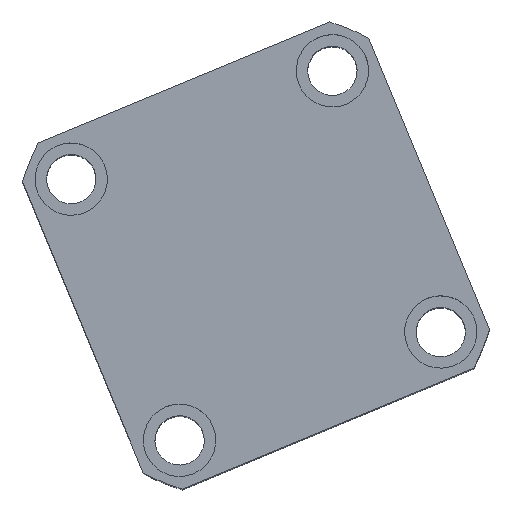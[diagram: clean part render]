
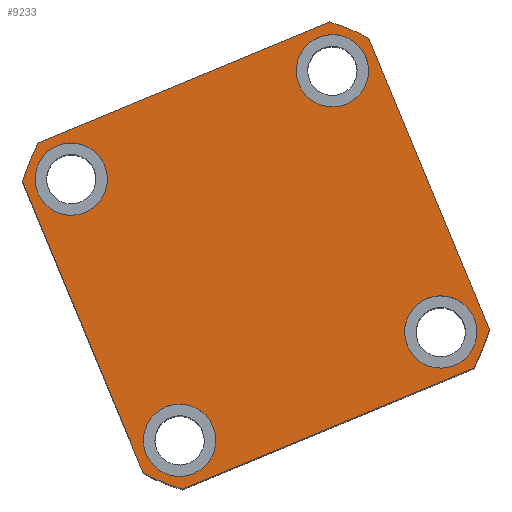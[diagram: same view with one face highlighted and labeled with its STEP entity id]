
A CAD part, top view. The second image highlights one B-rep face of the part: STEP entity #9233.
In plain terms, the highlighted planar face has unit normal (0, 0, 1) as drawn and (0, 0, -1) by its records, which use the part's own axes.
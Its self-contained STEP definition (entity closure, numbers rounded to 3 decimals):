
#123 = ORIENTED_EDGE ( 'NONE', *, *, #4210, .F. ) ;
#185 = AXIS2_PLACEMENT_3D ( 'NONE', #8755, #19676, #10366 ) ;
#231 = ORIENTED_EDGE ( 'NONE', *, *, #15755, .F. ) ;
#433 = AXIS2_PLACEMENT_3D ( 'NONE', #3958, #15053, #5515 ) ;
#449 = VERTEX_POINT ( 'NONE', #18095 ) ;
#770 = CARTESIAN_POINT ( 'NONE',  ( -57., -57., 0. ) ) ;
#855 = CARTESIAN_POINT ( 'NONE',  ( -43., -43., 0. ) ) ;
#1128 = ORIENTED_EDGE ( 'NONE', *, *, #17048, .F. ) ;
#1211 = EDGE_CURVE ( 'NONE', #6701, #18000, #17306, .T. ) ;
#1458 = DIRECTION ( 'NONE',  ( 1., 0., 0. ) ) ;
#1595 = LINE ( 'NONE', #770, #14790 ) ;
#2076 = DIRECTION ( 'NONE',  ( 0., 0., -1. ) ) ;
#2184 = EDGE_CURVE ( 'NONE', #8432, #10188, #18249, .T. ) ;
#2305 = FACE_BOUND ( 'NONE', #6984, .T. ) ;
#2321 = ORIENTED_EDGE ( 'NONE', *, *, #18865, .F. ) ;
#2391 = CIRCLE ( 'NONE', #13827, 11. ) ;
#2451 = ORIENTED_EDGE ( 'NONE', *, *, #3088, .F. ) ;
#2471 = DIRECTION ( 'NONE',  ( -1., 0., 0. ) ) ;
#3021 = CARTESIAN_POINT ( 'NONE',  ( 0., 0., 0. ) ) ;
#3088 = EDGE_CURVE ( 'NONE', #18477, #6701, #13403, .T. ) ;
#3949 = EDGE_CURVE ( 'NONE', #17562, #8432, #17006, .T. ) ;
#3958 = CARTESIAN_POINT ( 'NONE',  ( 43., -43., 0. ) ) ;
#4166 = CIRCLE ( 'NONE', #19478, 11. ) ;
#4210 = EDGE_CURVE ( 'NONE', #12007, #8802, #18203, .T. ) ;
#4614 = DIRECTION ( 'NONE',  ( 0., 0., -1. ) ) ;
#4975 = DIRECTION ( 'NONE',  ( 0., 0., -1. ) ) ;
#5122 = CIRCLE ( 'NONE', #15937, 74.5 ) ;
#5279 = VERTEX_POINT ( 'NONE', #11586 ) ;
#5361 = AXIS2_PLACEMENT_3D ( 'NONE', #8496, #8355, #8289 ) ;
#5374 = LINE ( 'NONE', #10198, #17502 ) ;
#5465 = ORIENTED_EDGE ( 'NONE', *, *, #7092, .F. ) ;
#5515 = DIRECTION ( 'NONE',  ( -1., 0., 0. ) ) ;
#5520 = CARTESIAN_POINT ( 'NONE',  ( -57., -47.971, 0. ) ) ;
#5885 = CARTESIAN_POINT ( 'NONE',  ( 57., -47.971, 0. ) ) ;
#5887 = ORIENTED_EDGE ( 'NONE', *, *, #17401, .F. ) ;
#5918 = ORIENTED_EDGE ( 'NONE', *, *, #18163, .F. ) ;
#6036 = CARTESIAN_POINT ( 'NONE',  ( -57., 57., 0. ) ) ;
#6057 = DIRECTION ( 'NONE',  ( -1., 0., 0. ) ) ;
#6075 = CIRCLE ( 'NONE', #11574, 11. ) ;
#6116 = DIRECTION ( 'NONE',  ( 0., 0., 1. ) ) ;
#6135 = CIRCLE ( 'NONE', #433, 11. ) ;
#6497 = CARTESIAN_POINT ( 'NONE',  ( 57., 47.971, 0. ) ) ;
#6701 = VERTEX_POINT ( 'NONE', #5520 ) ;
#6752 = AXIS2_PLACEMENT_3D ( 'NONE', #16323, #6812, #17840 ) ;
#6812 = DIRECTION ( 'NONE',  ( 0., 0., 1. ) ) ;
#6984 = EDGE_LOOP ( 'NONE', ( #5918, #9601 ) ) ;
#7041 = DIRECTION ( 'NONE',  ( 0., -1., 0. ) ) ;
#7092 = EDGE_CURVE ( 'NONE', #449, #8272, #6075, .T. ) ;
#7160 = DIRECTION ( 'NONE',  ( 0., 0., 1. ) ) ;
#7609 = EDGE_CURVE ( 'NONE', #18000, #12007, #1595, .T. ) ;
#7959 = CARTESIAN_POINT ( 'NONE',  ( 43., -43., 0. ) ) ;
#8257 = EDGE_LOOP ( 'NONE', ( #16959, #2321 ) ) ;
#8272 = VERTEX_POINT ( 'NONE', #18797 ) ;
#8289 = DIRECTION ( 'NONE',  ( 1., 0., 0. ) ) ;
#8355 = DIRECTION ( 'NONE',  ( 0., 0., 1. ) ) ;
#8432 = VERTEX_POINT ( 'NONE', #14699 ) ;
#8496 = CARTESIAN_POINT ( 'NONE',  ( 0., 0., 0. ) ) ;
#8504 = DIRECTION ( 'NONE',  ( 0., 0., -1. ) ) ;
#8755 = CARTESIAN_POINT ( 'NONE',  ( 43., 43., 0. ) ) ;
#8802 = VERTEX_POINT ( 'NONE', #5885 ) ;
#9020 = EDGE_LOOP ( 'NONE', ( #16710, #17341, #123, #14205, #11490, #2451, #231, #12734 ) ) ;
#9123 = CIRCLE ( 'NONE', #185, 11. ) ;
#9137 = AXIS2_PLACEMENT_3D ( 'NONE', #3021, #6116, #1458 ) ;
#9233 = ADVANCED_FACE ( 'NONE', ( #18125, #2305, #19076, #14025, #9802 ), #13162, .F. ) ;
#9388 = CIRCLE ( 'NONE', #20386, 11. ) ;
#9574 = DIRECTION ( 'NONE',  ( -1., 0., 0. ) ) ;
#9601 = ORIENTED_EDGE ( 'NONE', *, *, #17152, .F. ) ;
#9687 = DIRECTION ( 'NONE',  ( 0., 0., 1. ) ) ;
#9802 = FACE_OUTER_BOUND ( 'NONE', #9020, .T. ) ;
#9913 = VERTEX_POINT ( 'NONE', #10094 ) ;
#10094 = CARTESIAN_POINT ( 'NONE',  ( -32., 43., 0. ) ) ;
#10188 = VERTEX_POINT ( 'NONE', #10361 ) ;
#10198 = CARTESIAN_POINT ( 'NONE',  ( 57., 57., 0. ) ) ;
#10351 = DIRECTION ( 'NONE',  ( 1., 0., 0. ) ) ;
#10359 = AXIS2_PLACEMENT_3D ( 'NONE', #7959, #18923, #9574 ) ;
#10361 = CARTESIAN_POINT ( 'NONE',  ( -47.971, 57., 0. ) ) ;
#10366 = DIRECTION ( 'NONE',  ( -1., 0., 0. ) ) ;
#10445 = CARTESIAN_POINT ( 'NONE',  ( -57., 57., 0. ) ) ;
#10928 = DIRECTION ( 'NONE',  ( 1., 0., 0. ) ) ;
#11418 = CIRCLE ( 'NONE', #12616, 11. ) ;
#11479 = ORIENTED_EDGE ( 'NONE', *, *, #19723, .F. ) ;
#11490 = ORIENTED_EDGE ( 'NONE', *, *, #1211, .F. ) ;
#11574 = AXIS2_PLACEMENT_3D ( 'NONE', #855, #12039, #2471 ) ;
#11586 = CARTESIAN_POINT ( 'NONE',  ( 54., -43., 0. ) ) ;
#11632 = CARTESIAN_POINT ( 'NONE',  ( -43., -43., 0. ) ) ;
#11762 = EDGE_LOOP ( 'NONE', ( #5465, #1128 ) ) ;
#11803 = DIRECTION ( 'NONE',  ( 0., 1., 0. ) ) ;
#12007 = VERTEX_POINT ( 'NONE', #12553 ) ;
#12039 = DIRECTION ( 'NONE',  ( 0., 0., -1. ) ) ;
#12553 = CARTESIAN_POINT ( 'NONE',  ( 47.971, -57., 0. ) ) ;
#12616 = AXIS2_PLACEMENT_3D ( 'NONE', #11632, #2076, #13215 ) ;
#12668 = VERTEX_POINT ( 'NONE', #15039 ) ;
#12734 = ORIENTED_EDGE ( 'NONE', *, *, #2184, .F. ) ;
#12887 = CIRCLE ( 'NONE', #10359, 11. ) ;
#13162 = PLANE ( 'NONE',  #6752 ) ;
#13215 = DIRECTION ( 'NONE',  ( -1., 0., 0. ) ) ;
#13279 = VERTEX_POINT ( 'NONE', #18932 ) ;
#13403 = LINE ( 'NONE', #10445, #18007 ) ;
#13628 = CARTESIAN_POINT ( 'NONE',  ( -57., 47.971, 0. ) ) ;
#13775 = CARTESIAN_POINT ( 'NONE',  ( 0., 0., 0. ) ) ;
#13827 = AXIS2_PLACEMENT_3D ( 'NONE', #17908, #8504, #19433 ) ;
#14025 = FACE_BOUND ( 'NONE', #8257, .T. ) ;
#14154 = VECTOR ( 'NONE', #6057, 1000. ) ;
#14168 = CARTESIAN_POINT ( 'NONE',  ( 43., 43., 0. ) ) ;
#14205 = ORIENTED_EDGE ( 'NONE', *, *, #7609, .F. ) ;
#14533 = CARTESIAN_POINT ( 'NONE',  ( -43., 43., 0. ) ) ;
#14699 = CARTESIAN_POINT ( 'NONE',  ( 47.971, 57., 0. ) ) ;
#14718 = EDGE_LOOP ( 'NONE', ( #5887, #11479 ) ) ;
#14790 = VECTOR ( 'NONE', #10351, 1000. ) ;
#15039 = CARTESIAN_POINT ( 'NONE',  ( 54., 43., 0. ) ) ;
#15053 = DIRECTION ( 'NONE',  ( 0., 0., -1. ) ) ;
#15084 = EDGE_CURVE ( 'NONE', #8802, #17562, #5374, .T. ) ;
#15371 = CARTESIAN_POINT ( 'NONE',  ( -47.971, -57., 0. ) ) ;
#15656 = EDGE_CURVE ( 'NONE', #20360, #9913, #2391, .T. ) ;
#15742 = DIRECTION ( 'NONE',  ( -1., 0., 0. ) ) ;
#15755 = EDGE_CURVE ( 'NONE', #10188, #18477, #5122, .T. ) ;
#15937 = AXIS2_PLACEMENT_3D ( 'NONE', #16631, #7160, #18171 ) ;
#16097 = DIRECTION ( 'NONE',  ( -1., 0., 0. ) ) ;
#16323 = CARTESIAN_POINT ( 'NONE',  ( 0., 0., 0. ) ) ;
#16373 = CARTESIAN_POINT ( 'NONE',  ( 32., 43., 0. ) ) ;
#16631 = CARTESIAN_POINT ( 'NONE',  ( 0., 0., 0. ) ) ;
#16710 = ORIENTED_EDGE ( 'NONE', *, *, #3949, .F. ) ;
#16959 = ORIENTED_EDGE ( 'NONE', *, *, #15656, .F. ) ;
#17006 = CIRCLE ( 'NONE', #5361, 74.5 ) ;
#17048 = EDGE_CURVE ( 'NONE', #8272, #449, #11418, .T. ) ;
#17152 = EDGE_CURVE ( 'NONE', #5279, #13279, #6135, .T. ) ;
#17301 = CARTESIAN_POINT ( 'NONE',  ( -54., 43., 0. ) ) ;
#17306 = CIRCLE ( 'NONE', #9137, 74.5 ) ;
#17341 = ORIENTED_EDGE ( 'NONE', *, *, #15084, .F. ) ;
#17401 = EDGE_CURVE ( 'NONE', #19543, #12668, #4166, .T. ) ;
#17502 = VECTOR ( 'NONE', #11803, 1000. ) ;
#17562 = VERTEX_POINT ( 'NONE', #6497 ) ;
#17840 = DIRECTION ( 'NONE',  ( 1., 0., 0. ) ) ;
#17908 = CARTESIAN_POINT ( 'NONE',  ( -43., 43., 0. ) ) ;
#18000 = VERTEX_POINT ( 'NONE', #15371 ) ;
#18007 = VECTOR ( 'NONE', #7041, 1000. ) ;
#18095 = CARTESIAN_POINT ( 'NONE',  ( -54., -43., 0. ) ) ;
#18125 = FACE_BOUND ( 'NONE', #11762, .T. ) ;
#18163 = EDGE_CURVE ( 'NONE', #13279, #5279, #12887, .T. ) ;
#18171 = DIRECTION ( 'NONE',  ( 1., 0., 0. ) ) ;
#18203 = CIRCLE ( 'NONE', #20101, 74.5 ) ;
#18249 = LINE ( 'NONE', #6036, #14154 ) ;
#18477 = VERTEX_POINT ( 'NONE', #13628 ) ;
#18797 = CARTESIAN_POINT ( 'NONE',  ( -32., -43., 0. ) ) ;
#18865 = EDGE_CURVE ( 'NONE', #9913, #20360, #9388, .T. ) ;
#18923 = DIRECTION ( 'NONE',  ( 0., 0., -1. ) ) ;
#18932 = CARTESIAN_POINT ( 'NONE',  ( 32., -43., 0. ) ) ;
#19076 = FACE_BOUND ( 'NONE', #14718, .T. ) ;
#19433 = DIRECTION ( 'NONE',  ( -1., 0., 0. ) ) ;
#19478 = AXIS2_PLACEMENT_3D ( 'NONE', #14168, #4614, #15742 ) ;
#19543 = VERTEX_POINT ( 'NONE', #16373 ) ;
#19676 = DIRECTION ( 'NONE',  ( 0., 0., -1. ) ) ;
#19723 = EDGE_CURVE ( 'NONE', #12668, #19543, #9123, .T. ) ;
#20101 = AXIS2_PLACEMENT_3D ( 'NONE', #13775, #9687, #10928 ) ;
#20360 = VERTEX_POINT ( 'NONE', #17301 ) ;
#20386 = AXIS2_PLACEMENT_3D ( 'NONE', #14533, #4975, #16097 ) ;
